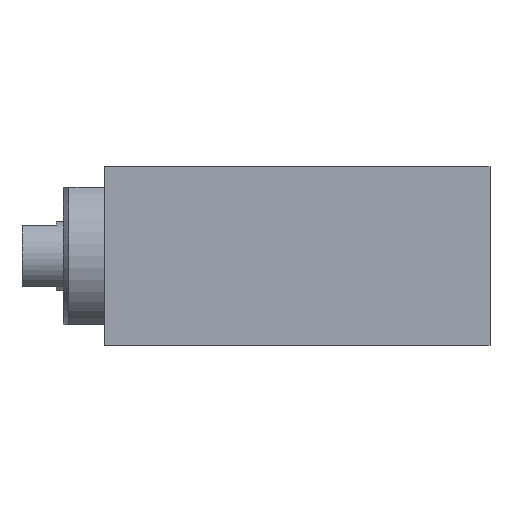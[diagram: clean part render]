
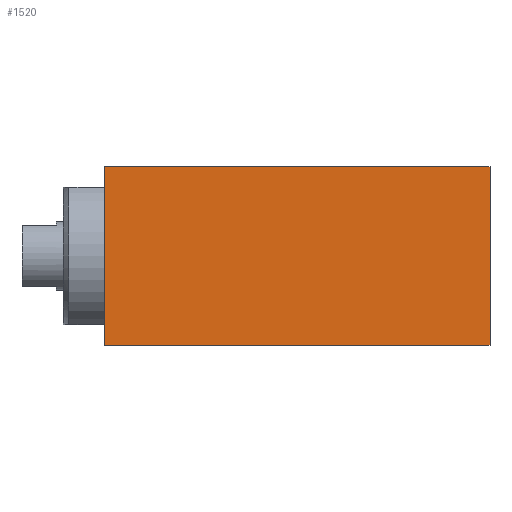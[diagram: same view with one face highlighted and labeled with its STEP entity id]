
A CAD part, front view. The second image highlights one B-rep face of the part: STEP entity #1520.
In plain terms, the highlighted planar face has unit normal (0, -1, 0).
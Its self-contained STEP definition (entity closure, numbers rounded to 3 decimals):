
#214 = EDGE_LOOP ( 'NONE', ( #397, #2333, #1022, #706 ) ) ;
#298 = FACE_OUTER_BOUND ( 'NONE', #214, .T. ) ;
#379 = DIRECTION ( 'NONE',  ( 1., 0., 0. ) ) ;
#397 = ORIENTED_EDGE ( 'NONE', *, *, #1991, .F. ) ;
#547 = CARTESIAN_POINT ( 'NONE',  ( 28., -11., 6.5 ) ) ;
#573 = CARTESIAN_POINT ( 'NONE',  ( 28., -11., -6.5 ) ) ;
#706 = ORIENTED_EDGE ( 'NONE', *, *, #2442, .T. ) ;
#714 = VECTOR ( 'NONE', #2243, 1000. ) ;
#771 = VECTOR ( 'NONE', #1473, 1000. ) ;
#795 = DIRECTION ( 'NONE',  ( -1., 0., 0. ) ) ;
#873 = CARTESIAN_POINT ( 'NONE',  ( 28., -11., -6.5 ) ) ;
#892 = DIRECTION ( 'NONE',  ( -1., 0., 0. ) ) ;
#959 = VERTEX_POINT ( 'NONE', #547 ) ;
#999 = DIRECTION ( 'NONE',  ( 0., -1., 0. ) ) ;
#1022 = ORIENTED_EDGE ( 'NONE', *, *, #2006, .T. ) ;
#1114 = CARTESIAN_POINT ( 'NONE',  ( 28., -11., 6.5 ) ) ;
#1280 = LINE ( 'NONE', #1307, #714 ) ;
#1307 = CARTESIAN_POINT ( 'NONE',  ( 28., -11., -6.5 ) ) ;
#1372 = VERTEX_POINT ( 'NONE', #873 ) ;
#1448 = VECTOR ( 'NONE', #892, 1000. ) ;
#1473 = DIRECTION ( 'NONE',  ( 0., 0., 1. ) ) ;
#1502 = LINE ( 'NONE', #573, #2089 ) ;
#1512 = CARTESIAN_POINT ( 'NONE',  ( 0., -11., 6.5 ) ) ;
#1520 = ADVANCED_FACE ( 'NONE', ( #298 ), #2937, .T. ) ;
#1533 = LINE ( 'NONE', #2198, #771 ) ;
#1565 = LINE ( 'NONE', #1114, #1448 ) ;
#1772 = CARTESIAN_POINT ( 'NONE',  ( 28., -11., -6.5 ) ) ;
#1941 = EDGE_CURVE ( 'NONE', #1372, #2878, #1502, .T. ) ;
#1991 = EDGE_CURVE ( 'NONE', #2878, #2796, #1533, .T. ) ;
#2006 = EDGE_CURVE ( 'NONE', #1372, #959, #1280, .T. ) ;
#2089 = VECTOR ( 'NONE', #795, 1000. ) ;
#2198 = CARTESIAN_POINT ( 'NONE',  ( 0., -11., -6.5 ) ) ;
#2243 = DIRECTION ( 'NONE',  ( 0., 0., 1. ) ) ;
#2249 = CARTESIAN_POINT ( 'NONE',  ( 0., -11., -6.5 ) ) ;
#2287 = AXIS2_PLACEMENT_3D ( 'NONE', #1772, #999, #379 ) ;
#2333 = ORIENTED_EDGE ( 'NONE', *, *, #1941, .F. ) ;
#2442 = EDGE_CURVE ( 'NONE', #959, #2796, #1565, .T. ) ;
#2796 = VERTEX_POINT ( 'NONE', #1512 ) ;
#2878 = VERTEX_POINT ( 'NONE', #2249 ) ;
#2937 = PLANE ( 'NONE',  #2287 ) ;
